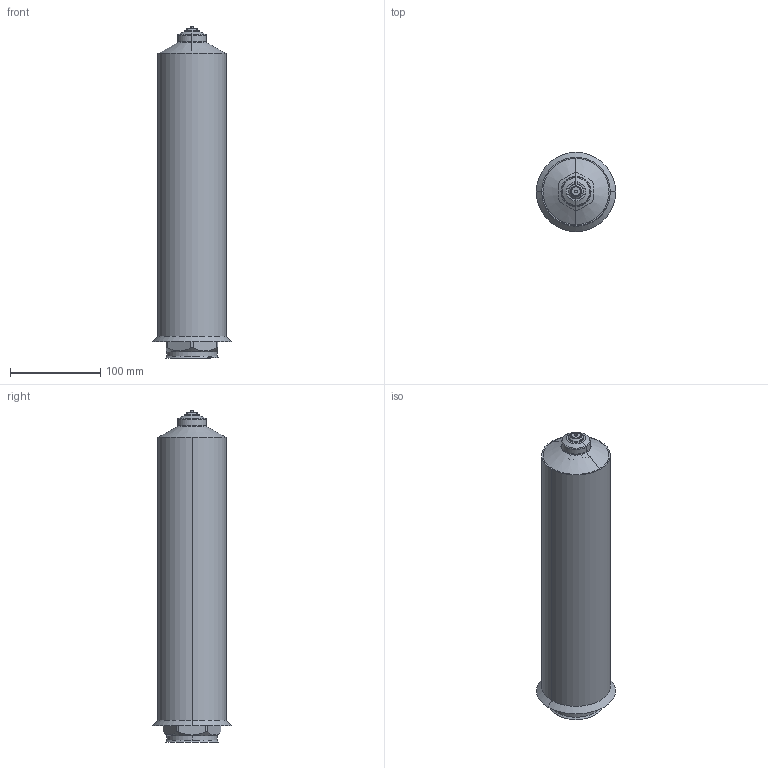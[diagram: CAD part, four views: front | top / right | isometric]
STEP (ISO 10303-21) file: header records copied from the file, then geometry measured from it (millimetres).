
FILE_DESCRIPTION (( 'STEP AP214' ), '1' );
FILE_NAME ('T24_OPEN_350_HELICAL_76.STEP', '2009-05-11T13:38:01', ( 'Synventive Molding Solutions' ), ( 'Synventive Molding Solutions' ), 'SwSTEP 2.0', 'SolidWorks 2008', '' );
FILE_SCHEMA (( 'AUTOMOTIVE_DESIGN' ));
Length unit declared in the file: millimetre
Products named in the file (1): T24_OPEN_350_HELICAL_76
Bounding box: 88 x 88 x 368 mm (x, y, z)
Volume: 2277528.3 mm3; surface area: 170936.5 mm2
Topology: 2 solids, 2 shells, 223 faces, 588 edges, 375 vertices
Faces by surface type: cylinder 77, plane 66, cone 29, bspline 27, torus 24
Entity records: 19133 total; most frequent: CARTESIAN_POINT 11480, ORIENTED_EDGE 1176, DIRECTION 1010, EDGE_CURVE 588, AXIS2_PLACEMENT_3D 394, VERTEX_POINT 375, EDGE_LOOP 235, UNCERTAINTY_MEASURE_WITH_UNIT 225
